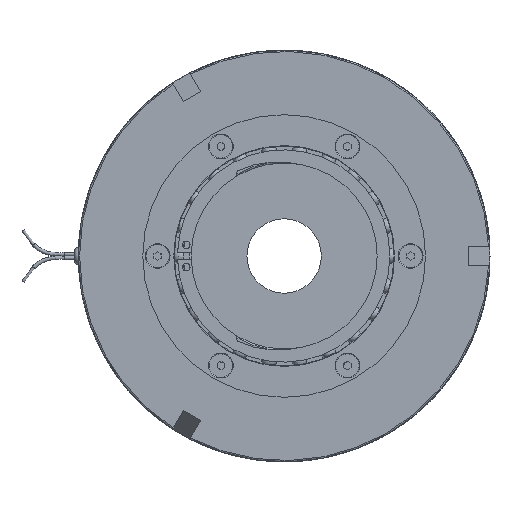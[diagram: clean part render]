
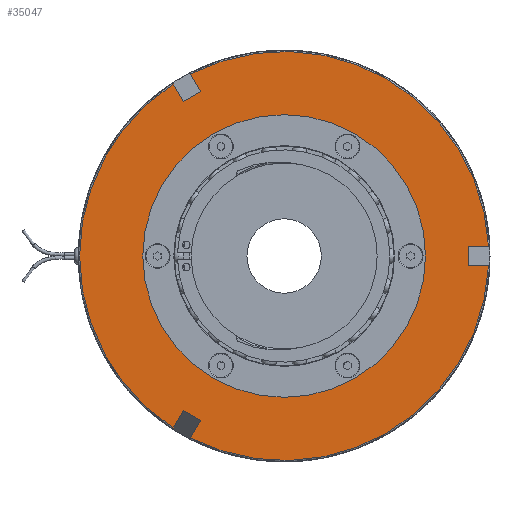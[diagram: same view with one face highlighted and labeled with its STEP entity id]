
A CAD part, left-side view. The second image highlights one B-rep face of the part: STEP entity #35047.
In plain terms, the highlighted planar face has unit normal (-1, 0, 0).
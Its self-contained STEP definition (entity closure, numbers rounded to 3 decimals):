
#2608=FACE_BOUND('',#6814,.T.);
#2726=PLANE('',#37677);
#4731=FACE_OUTER_BOUND('',#6813,.T.);
#6813=EDGE_LOOP('',(#24679,#24680,#24681,#24682,#24683,#24684,#24685,#24686,
#24687,#24688,#24689,#24690));
#6814=EDGE_LOOP('',(#24691));
#8744=LINE('',#59088,#10758);
#8747=LINE('',#59105,#10761);
#8749=LINE('',#59111,#10763);
#8751=LINE('',#59127,#10765);
#8754=LINE('',#59144,#10768);
#8756=LINE('',#59150,#10770);
#8758=LINE('',#59168,#10772);
#8759=LINE('',#59170,#10773);
#8760=LINE('',#59172,#10774);
#10758=VECTOR('',#43675,10.);
#10761=VECTOR('',#43680,10.);
#10763=VECTOR('',#43686,10.);
#10765=VECTOR('',#43690,10.);
#10768=VECTOR('',#43695,10.);
#10770=VECTOR('',#43701,10.);
#10772=VECTOR('',#43709,10.);
#10773=VECTOR('',#43710,10.);
#10774=VECTOR('',#43711,10.);
#12920=CIRCLE('',#37678,82.5);
#12921=CIRCLE('',#37679,82.5);
#12922=CIRCLE('',#37680,82.5);
#12923=CIRCLE('',#37681,57.);
#14387=VERTEX_POINT('',#59086);
#14388=VERTEX_POINT('',#59087);
#14391=VERTEX_POINT('',#59104);
#14393=VERTEX_POINT('',#59110);
#14395=VERTEX_POINT('',#59125);
#14396=VERTEX_POINT('',#59126);
#14399=VERTEX_POINT('',#59143);
#14401=VERTEX_POINT('',#59149);
#14403=VERTEX_POINT('',#59165);
#14404=VERTEX_POINT('',#59167);
#14405=VERTEX_POINT('',#59169);
#14406=VERTEX_POINT('',#59171);
#14407=VERTEX_POINT('',#59174);
#18364=EDGE_CURVE('',#14387,#14388,#8744,.T.);
#18368=EDGE_CURVE('',#14391,#14387,#8747,.T.);
#18371=EDGE_CURVE('',#14393,#14391,#8749,.T.);
#18374=EDGE_CURVE('',#14395,#14396,#8751,.T.);
#18378=EDGE_CURVE('',#14399,#14395,#8754,.T.);
#18381=EDGE_CURVE('',#14401,#14399,#8756,.T.);
#18384=EDGE_CURVE('',#14401,#14388,#12920,.T.);
#18385=EDGE_CURVE('',#14403,#14396,#12921,.T.);
#18386=EDGE_CURVE('',#14403,#14404,#8758,.T.);
#18387=EDGE_CURVE('',#14404,#14405,#8759,.T.);
#18388=EDGE_CURVE('',#14405,#14406,#8760,.T.);
#18389=EDGE_CURVE('',#14393,#14406,#12922,.T.);
#18390=EDGE_CURVE('',#14407,#14407,#12923,.T.);
#24679=ORIENTED_EDGE('',*,*,#18371,.T.);
#24680=ORIENTED_EDGE('',*,*,#18368,.T.);
#24681=ORIENTED_EDGE('',*,*,#18364,.T.);
#24682=ORIENTED_EDGE('',*,*,#18384,.F.);
#24683=ORIENTED_EDGE('',*,*,#18381,.T.);
#24684=ORIENTED_EDGE('',*,*,#18378,.T.);
#24685=ORIENTED_EDGE('',*,*,#18374,.T.);
#24686=ORIENTED_EDGE('',*,*,#18385,.F.);
#24687=ORIENTED_EDGE('',*,*,#18386,.T.);
#24688=ORIENTED_EDGE('',*,*,#18387,.T.);
#24689=ORIENTED_EDGE('',*,*,#18388,.T.);
#24690=ORIENTED_EDGE('',*,*,#18389,.F.);
#24691=ORIENTED_EDGE('',*,*,#18390,.T.);
#35047=ADVANCED_FACE('',(#4731,#2608),#2726,.T.);
#37677=AXIS2_PLACEMENT_3D('',#59163,#43703,#43704);
#37678=AXIS2_PLACEMENT_3D('',#59164,#43705,#43706);
#37679=AXIS2_PLACEMENT_3D('',#59166,#43707,#43708);
#37680=AXIS2_PLACEMENT_3D('',#59173,#43712,#43713);
#37681=AXIS2_PLACEMENT_3D('',#59175,#43714,#43715);
#43675=DIRECTION('',(0.,0.5,0.866));
#43680=DIRECTION('',(0.,0.866,-0.5));
#43686=DIRECTION('',(0.,-0.5,-0.866));
#43690=DIRECTION('',(0.,0.5,-0.866));
#43695=DIRECTION('',(0.,-0.866,-0.5));
#43701=DIRECTION('',(0.,-0.5,0.866));
#43703=DIRECTION('center_axis',(-1.,0.,0.));
#43704=DIRECTION('ref_axis',(0.,0.,1.));
#43705=DIRECTION('center_axis',(1.,0.,0.));
#43706=DIRECTION('ref_axis',(0.,-1.,0.));
#43707=DIRECTION('center_axis',(1.,0.,0.));
#43708=DIRECTION('ref_axis',(0.,-1.,0.));
#43709=DIRECTION('',(0.,1.,0.));
#43710=DIRECTION('',(0.,0.,1.));
#43711=DIRECTION('',(0.,-1.,0.));
#43712=DIRECTION('center_axis',(1.,0.,0.));
#43713=DIRECTION('ref_axis',(0.,-1.,0.));
#43714=DIRECTION('center_axis',(1.,0.,0.));
#43715=DIRECTION('ref_axis',(0.,1.,0.));
#59086=CARTESIAN_POINT('',(-24.5,40.575,62.278));
#59087=CARTESIAN_POINT('',(-24.5,44.666,69.363));
#59088=CARTESIAN_POINT('',(-24.5,32.615,48.49));
#59104=CARTESIAN_POINT('',(-24.5,33.647,66.278));
#59105=CARTESIAN_POINT('',(-24.5,63.361,49.123));
#59110=CARTESIAN_POINT('',(-24.5,37.737,73.363));
#59111=CARTESIAN_POINT('',(-24.5,25.686,52.49));
#59125=CARTESIAN_POINT('',(-24.5,33.647,-66.278));
#59126=CARTESIAN_POINT('',(-24.5,37.737,-73.363));
#59127=CARTESIAN_POINT('',(-24.5,25.686,-52.49));
#59143=CARTESIAN_POINT('',(-24.5,40.575,-62.278));
#59144=CARTESIAN_POINT('',(-24.5,63.361,-49.123));
#59149=CARTESIAN_POINT('',(-24.5,44.666,-69.363));
#59150=CARTESIAN_POINT('',(-24.5,32.615,-48.49));
#59163=CARTESIAN_POINT('Origin',(-24.5,70.,0.));
#59164=CARTESIAN_POINT('Origin',(-24.5,0.,0.));
#59165=CARTESIAN_POINT('',(-24.5,-82.403,-4.));
#59166=CARTESIAN_POINT('Origin',(-24.5,0.,0.));
#59167=CARTESIAN_POINT('',(-24.5,-74.222,-4.));
#59168=CARTESIAN_POINT('',(-24.5,-5.801,-4.));
#59169=CARTESIAN_POINT('',(-24.5,-74.222,4.));
#59170=CARTESIAN_POINT('',(-24.5,-74.222,0.));
#59171=CARTESIAN_POINT('',(-24.5,-82.403,4.));
#59172=CARTESIAN_POINT('',(-24.5,-5.801,4.));
#59173=CARTESIAN_POINT('Origin',(-24.5,0.,0.));
#59174=CARTESIAN_POINT('',(-24.5,-57.,0.));
#59175=CARTESIAN_POINT('Origin',(-24.5,0.,0.));
